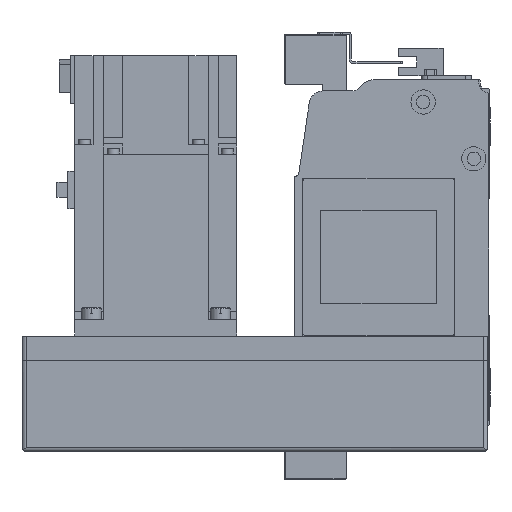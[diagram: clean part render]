
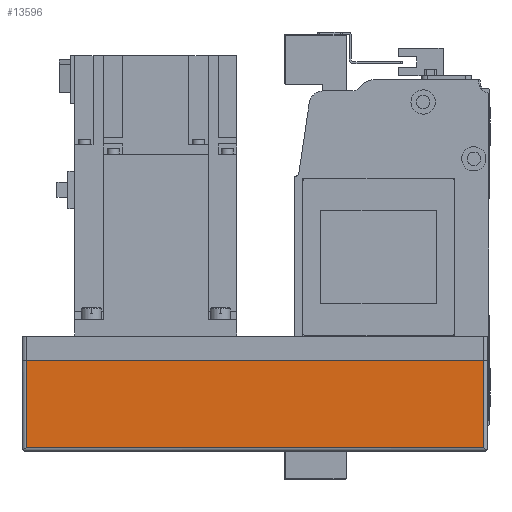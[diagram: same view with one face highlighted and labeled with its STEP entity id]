
A CAD part, left-side view. The second image highlights one B-rep face of the part: STEP entity #13596.
In plain terms, the highlighted planar face has unit normal (-1, 0, 0) as drawn and (0, -1, 0) by its records, which use the part's own axes.
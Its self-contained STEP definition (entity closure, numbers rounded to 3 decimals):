
#2341=ORIENTED_EDGE('',*,*,#5594,.F.);
#2342=ORIENTED_EDGE('',*,*,#5597,.T.);
#2343=ORIENTED_EDGE('',*,*,#5598,.T.);
#2344=ORIENTED_EDGE('',*,*,#5599,.F.);
#5594=EDGE_CURVE('',#7351,#7352,#8781,.T.);
#5597=EDGE_CURVE('',#7351,#7354,#8783,.T.);
#5598=EDGE_CURVE('',#7354,#7355,#8784,.T.);
#5599=EDGE_CURVE('',#7352,#7355,#8785,.T.);
#7351=VERTEX_POINT('',#21265);
#7352=VERTEX_POINT('',#21267);
#7354=VERTEX_POINT('',#21273);
#7355=VERTEX_POINT('',#21275);
#8781=LINE('',#21266,#10094);
#8783=LINE('',#21272,#10096);
#8784=LINE('',#21274,#10097);
#8785=LINE('',#21276,#10098);
#10094=VECTOR('',#16996,1000.);
#10096=VECTOR('',#17002,1000.);
#10097=VECTOR('',#17003,1000.);
#10098=VECTOR('',#17004,1000.);
#11218=EDGE_LOOP('',(#2341,#2342,#2343,#2344));
#12197=FACE_BOUND('',#11218,.T.);
#13026=PLANE('',#14580);
#13596=ADVANCED_FACE('',(#12197),#13026,.T.);
#14580=AXIS2_PLACEMENT_3D('',#21271,#17000,#17001);
#16996=DIRECTION('',(0.,0.,1.));
#17000=DIRECTION('',(0.,-1.,0.));
#17001=DIRECTION('',(0.,0.,-1.));
#17002=DIRECTION('',(1.,0.,0.));
#17003=DIRECTION('',(0.,0.,1.));
#17004=DIRECTION('',(1.,0.,0.));
#21265=CARTESIAN_POINT('',(-228.,-54.,-55.));
#21266=CARTESIAN_POINT('',(-228.,-54.,-57.));
#21267=CARTESIAN_POINT('',(-228.,-54.,-12.));
#21271=CARTESIAN_POINT('',(-228.,-54.,-57.));
#21272=CARTESIAN_POINT('',(-230.,-54.,-55.));
#21273=CARTESIAN_POINT('',(-2.,-54.,-55.));
#21274=CARTESIAN_POINT('',(-2.,-54.,-57.));
#21275=CARTESIAN_POINT('',(-2.,-54.,-12.));
#21276=CARTESIAN_POINT('',(-228.,-54.,-12.));
